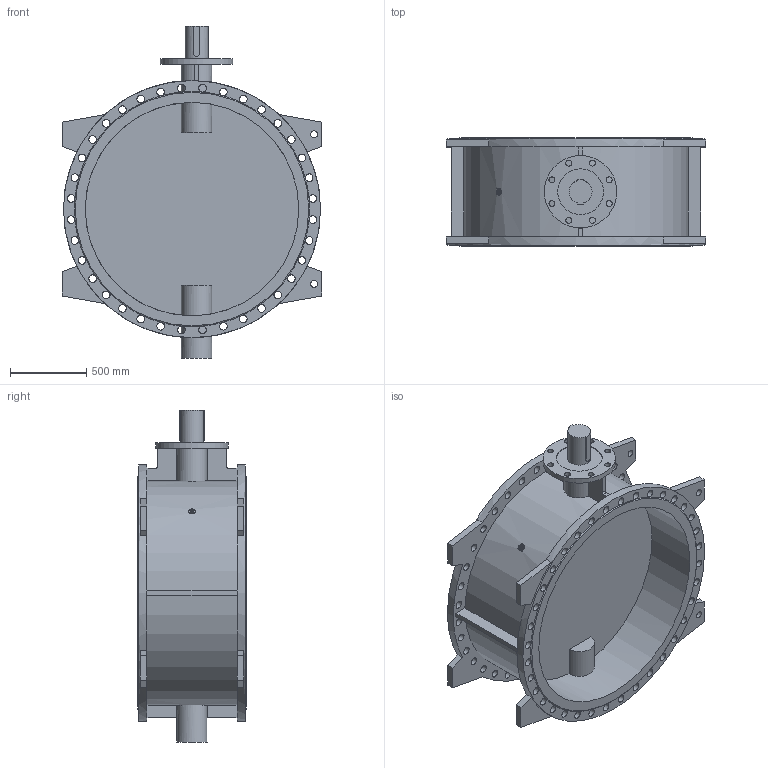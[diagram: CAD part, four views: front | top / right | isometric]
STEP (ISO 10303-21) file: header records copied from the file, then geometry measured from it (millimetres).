
FILE_DESCRIPTION(('STEP AP203'), '1');
FILE_NAME('Çàòâîð 023F.Z DN1400 PN16_èñï', '', ('UNSPECIFIED'), ('UNSPECIFIED'), 'ASCON STEP Converter 1.6', 'ASCON Math Kernel', '');
FILE_SCHEMA(('CONFIG_CONTROL_DESIGN'));
Length unit declared in the file: millimetre
Bounding box: 1700 x 710 x 2176 mm (x, y, z)
Volume: 373738254.3 mm3; surface area: 13658540.2 mm2
Topology: 1 solids, 1 shells, 200 faces, 698 edges, 440 vertices
Faces by surface type: cylinder 111, plane 87, cone 2
Full cylindrical faces by diameter (mm): 39 x8, 45 x4, 50 x72, 150 x1, 200 x1, 300 x1, 475 x1, 1400 x2, 1685 x2
Entity records: 10328 total; most frequent: CARTESIAN_POINT 2338, DIRECTION 1366, ORIENTED_EDGE 1208, EDGE_CURVE 604, AXIS2_PLACEMENT_3D 580, EDGE_LOOP 470, VERTEX_POINT 440, CIRCLE 379
